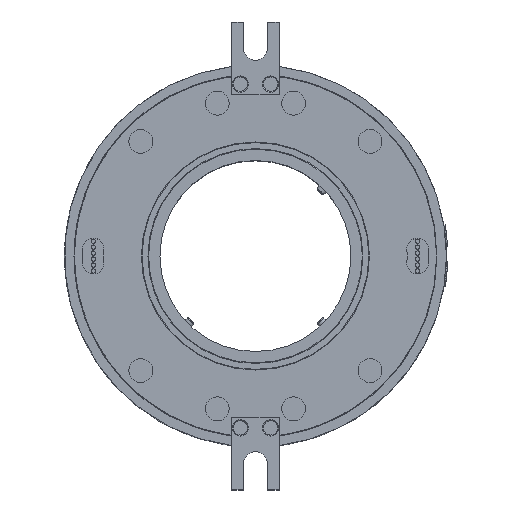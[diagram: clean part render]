
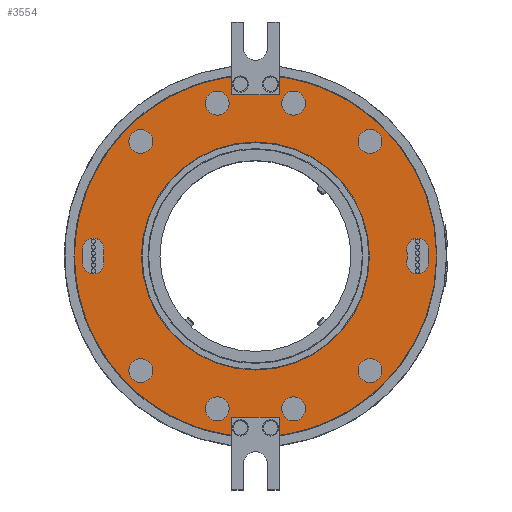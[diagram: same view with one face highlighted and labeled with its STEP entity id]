
A CAD part, top view. The second image highlights one B-rep face of the part: STEP entity #3554.
In plain terms, the highlighted planar face has unit normal (0, 0, 1).
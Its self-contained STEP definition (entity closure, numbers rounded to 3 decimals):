
#3554=ADVANCED_FACE('',(#5081,#5082,#5083,#5084,#5085,#5086,#5087,#5088,
#5089,#5090,#5091,#5092),#3959,.T.);
#3959=PLANE('',#14255);
#4179=LINE('',#23003,#4538);
#4181=LINE('',#23007,#4540);
#4182=LINE('',#23009,#4541);
#4188=LINE('',#23022,#4547);
#4190=LINE('',#23026,#4549);
#4191=LINE('',#23028,#4550);
#4538=VECTOR('',#15103,1.);
#4540=VECTOR('',#15107,1.);
#4541=VECTOR('',#15110,1.);
#4547=VECTOR('',#15124,1.);
#4549=VECTOR('',#15128,1.);
#4550=VECTOR('',#15131,1.);
#5081=FACE_BOUND('',#5981,.T.);
#5082=FACE_BOUND('',#5982,.T.);
#5083=FACE_BOUND('',#5983,.T.);
#5084=FACE_BOUND('',#5984,.T.);
#5085=FACE_BOUND('',#5985,.T.);
#5086=FACE_BOUND('',#5986,.T.);
#5087=FACE_BOUND('',#5987,.T.);
#5088=FACE_BOUND('',#5988,.T.);
#5089=FACE_BOUND('',#5989,.T.);
#5090=FACE_BOUND('',#5990,.T.);
#5091=FACE_BOUND('',#5991,.T.);
#5092=FACE_BOUND('',#5992,.T.);
#5981=EDGE_LOOP('',(#9131,#9132,#9133,#9134));
#5982=EDGE_LOOP('',(#9135,#9136,#9137,#9138,#9139,#9140,#9141,#9142));
#5983=EDGE_LOOP('',(#9143));
#5984=EDGE_LOOP('',(#9144));
#5985=EDGE_LOOP('',(#9145));
#5986=EDGE_LOOP('',(#9146));
#5987=EDGE_LOOP('',(#9147));
#5988=EDGE_LOOP('',(#9148,#9149,#9150,#9151));
#5989=EDGE_LOOP('',(#9152));
#5990=EDGE_LOOP('',(#9153));
#5991=EDGE_LOOP('',(#9154));
#5992=EDGE_LOOP('',(#9155));
#9131=ORIENTED_EDGE('',*,*,#12357,.F.);
#9132=ORIENTED_EDGE('',*,*,#12355,.F.);
#9133=ORIENTED_EDGE('',*,*,#12353,.T.);
#9134=ORIENTED_EDGE('',*,*,#12351,.F.);
#9135=ORIENTED_EDGE('',*,*,#12347,.F.);
#9136=ORIENTED_EDGE('',*,*,#12346,.F.);
#9137=ORIENTED_EDGE('',*,*,#12344,.F.);
#9138=ORIENTED_EDGE('',*,*,#12339,.F.);
#9139=ORIENTED_EDGE('',*,*,#12336,.F.);
#9140=ORIENTED_EDGE('',*,*,#12335,.F.);
#9141=ORIENTED_EDGE('',*,*,#12333,.F.);
#9142=ORIENTED_EDGE('',*,*,#12340,.F.);
#9143=ORIENTED_EDGE('',*,*,#13186,.F.);
#9144=ORIENTED_EDGE('',*,*,#12329,.T.);
#9145=ORIENTED_EDGE('',*,*,#12328,.T.);
#9146=ORIENTED_EDGE('',*,*,#12327,.T.);
#9147=ORIENTED_EDGE('',*,*,#12326,.T.);
#9148=ORIENTED_EDGE('',*,*,#12325,.F.);
#9149=ORIENTED_EDGE('',*,*,#12324,.T.);
#9150=ORIENTED_EDGE('',*,*,#12322,.T.);
#9151=ORIENTED_EDGE('',*,*,#12320,.T.);
#9152=ORIENTED_EDGE('',*,*,#12317,.T.);
#9153=ORIENTED_EDGE('',*,*,#12316,.T.);
#9154=ORIENTED_EDGE('',*,*,#12315,.T.);
#9155=ORIENTED_EDGE('',*,*,#12314,.T.);
#10425=VERTEX_POINT('',#18964);
#10426=VERTEX_POINT('',#18965);
#10431=VERTEX_POINT('',#18978);
#10432=VERTEX_POINT('',#18979);
#10871=VERTEX_POINT('',#22959);
#10872=VERTEX_POINT('',#22962);
#10873=VERTEX_POINT('',#22965);
#10874=VERTEX_POINT('',#22968);
#10875=VERTEX_POINT('',#22971);
#10876=VERTEX_POINT('',#22973);
#10877=VERTEX_POINT('',#22977);
#10878=VERTEX_POINT('',#22981);
#10879=VERTEX_POINT('',#22987);
#10880=VERTEX_POINT('',#22990);
#10881=VERTEX_POINT('',#22993);
#10882=VERTEX_POINT('',#22996);
#10883=VERTEX_POINT('',#22999);
#10885=VERTEX_POINT('',#23006);
#10887=VERTEX_POINT('',#23018);
#10889=VERTEX_POINT('',#23025);
#10891=VERTEX_POINT('',#23034);
#10892=VERTEX_POINT('',#23036);
#10893=VERTEX_POINT('',#23040);
#10894=VERTEX_POINT('',#23044);
#11307=VERTEX_POINT('',#28230);
#12314=EDGE_CURVE('',#10871,#10871,#13574,.T.);
#12315=EDGE_CURVE('',#10872,#10872,#13575,.T.);
#12316=EDGE_CURVE('',#10873,#10873,#13576,.T.);
#12317=EDGE_CURVE('',#10874,#10874,#13577,.T.);
#12320=EDGE_CURVE('',#10875,#10876,#13578,.T.);
#12322=EDGE_CURVE('',#10877,#10875,#13579,.T.);
#12324=EDGE_CURVE('',#10878,#10877,#13580,.T.);
#12325=EDGE_CURVE('',#10878,#10876,#13581,.T.);
#12326=EDGE_CURVE('',#10879,#10879,#13582,.T.);
#12327=EDGE_CURVE('',#10880,#10880,#13583,.T.);
#12328=EDGE_CURVE('',#10881,#10881,#13584,.T.);
#12329=EDGE_CURVE('',#10882,#10882,#13585,.T.);
#12333=EDGE_CURVE('',#10425,#10883,#4179,.T.);
#12335=EDGE_CURVE('',#10883,#10885,#4181,.T.);
#12336=EDGE_CURVE('',#10885,#10426,#4182,.T.);
#12339=EDGE_CURVE('',#10426,#10431,#13586,.T.);
#12340=EDGE_CURVE('',#10432,#10425,#13587,.T.);
#12344=EDGE_CURVE('',#10431,#10887,#4188,.T.);
#12346=EDGE_CURVE('',#10887,#10889,#4190,.T.);
#12347=EDGE_CURVE('',#10889,#10432,#4191,.T.);
#12351=EDGE_CURVE('',#10891,#10892,#13588,.T.);
#12353=EDGE_CURVE('',#10893,#10892,#13589,.T.);
#12355=EDGE_CURVE('',#10893,#10894,#13590,.T.);
#12357=EDGE_CURVE('',#10894,#10891,#13591,.T.);
#13186=EDGE_CURVE('',#11307,#11307,#13634,.T.);
#13574=CIRCLE('',#13905,5.);
#13575=CIRCLE('',#13907,5.);
#13576=CIRCLE('',#13909,5.);
#13577=CIRCLE('',#13911,5.);
#13578=CIRCLE('',#13913,4.5);
#13579=CIRCLE('',#13915,72.5);
#13580=CIRCLE('',#13917,4.5);
#13581=CIRCLE('',#13919,63.5);
#13582=CIRCLE('',#13921,5.);
#13583=CIRCLE('',#13923,5.);
#13584=CIRCLE('',#13925,5.);
#13585=CIRCLE('',#13927,5.);
#13586=CIRCLE('',#13932,75.9);
#13587=CIRCLE('',#13933,75.9);
#13588=CIRCLE('',#13938,4.5);
#13589=CIRCLE('',#13940,63.5);
#13590=CIRCLE('',#13942,4.5);
#13591=CIRCLE('',#13944,72.5);
#13634=CIRCLE('',#14254,47.75);
#13905=AXIS2_PLACEMENT_3D('',#22958,#15048,#15049);
#13907=AXIS2_PLACEMENT_3D('',#22961,#15052,#15053);
#13909=AXIS2_PLACEMENT_3D('',#22964,#15056,#15057);
#13911=AXIS2_PLACEMENT_3D('',#22967,#15060,#15061);
#13913=AXIS2_PLACEMENT_3D('',#22974,#15066,#15067);
#13915=AXIS2_PLACEMENT_3D('',#22978,#15071,#15072);
#13917=AXIS2_PLACEMENT_3D('',#22982,#15076,#15077);
#13919=AXIS2_PLACEMENT_3D('',#22984,#15080,#15081);
#13921=AXIS2_PLACEMENT_3D('',#22986,#15084,#15085);
#13923=AXIS2_PLACEMENT_3D('',#22989,#15088,#15089);
#13925=AXIS2_PLACEMENT_3D('',#22992,#15092,#15093);
#13927=AXIS2_PLACEMENT_3D('',#22995,#15096,#15097);
#13932=AXIS2_PLACEMENT_3D('',#23014,#15115,#15116);
#13933=AXIS2_PLACEMENT_3D('',#23015,#15117,#15118);
#13938=AXIS2_PLACEMENT_3D('',#23035,#15137,#15138);
#13940=AXIS2_PLACEMENT_3D('',#23039,#15142,#15143);
#13942=AXIS2_PLACEMENT_3D('',#23043,#15147,#15148);
#13944=AXIS2_PLACEMENT_3D('',#23047,#15152,#15153);
#14254=AXIS2_PLACEMENT_3D('',#28229,#16056,#16057);
#14255=AXIS2_PLACEMENT_3D('',#28231,#16058,#16059);
#15048=DIRECTION('',(0.,0.,-1.));
#15049=DIRECTION('',(1.,0.,0.));
#15052=DIRECTION('',(0.,0.,-1.));
#15053=DIRECTION('',(1.,0.,0.));
#15056=DIRECTION('',(0.,0.,-1.));
#15057=DIRECTION('',(1.,0.,0.));
#15060=DIRECTION('',(0.,0.,-1.));
#15061=DIRECTION('',(1.,0.,0.));
#15066=DIRECTION('',(0.,0.,-1.));
#15067=DIRECTION('',(0.999,-0.044,0.));
#15071=DIRECTION('',(0.,0.,-1.));
#15072=DIRECTION('',(1.,0.,0.));
#15076=DIRECTION('',(0.,0.,-1.));
#15077=DIRECTION('',(0.999,0.044,0.));
#15080=DIRECTION('',(0.,0.,-1.));
#15081=DIRECTION('',(1.,0.,0.));
#15084=DIRECTION('',(0.,0.,-1.));
#15085=DIRECTION('',(1.,0.,0.));
#15088=DIRECTION('',(0.,0.,-1.));
#15089=DIRECTION('',(1.,0.,0.));
#15092=DIRECTION('',(0.,0.,-1.));
#15093=DIRECTION('',(1.,0.,0.));
#15096=DIRECTION('',(0.,0.,-1.));
#15097=DIRECTION('',(1.,0.,0.));
#15103=DIRECTION('',(0.,1.,0.));
#15107=DIRECTION('',(-1.,0.,0.));
#15110=DIRECTION('',(0.,-1.,0.));
#15115=DIRECTION('',(0.,0.,-1.));
#15116=DIRECTION('',(1.,0.,0.));
#15117=DIRECTION('',(0.,0.,-1.));
#15118=DIRECTION('',(1.,0.,0.));
#15124=DIRECTION('',(0.,-1.,0.));
#15128=DIRECTION('',(1.,0.,0.));
#15131=DIRECTION('',(0.,1.,0.));
#15137=DIRECTION('',(0.,0.,1.));
#15138=DIRECTION('',(1.,0.,0.));
#15142=DIRECTION('',(0.,0.,1.));
#15143=DIRECTION('',(1.,0.,0.));
#15147=DIRECTION('',(0.,0.,1.));
#15148=DIRECTION('',(1.,0.,0.));
#15152=DIRECTION('',(0.,0.,1.));
#15153=DIRECTION('',(1.,0.,0.));
#16056=DIRECTION('',(0.,0.,1.));
#16057=DIRECTION('',(1.,0.,0.));
#16058=DIRECTION('',(0.,0.,1.));
#16059=DIRECTION('',(1.,0.,0.));
#18964=CARTESIAN_POINT('',(10.,-75.238,91.5));
#18965=CARTESIAN_POINT('',(-10.,-75.238,91.5));
#18978=CARTESIAN_POINT('',(-10.,75.238,91.5));
#18979=CARTESIAN_POINT('',(10.,75.238,91.5));
#22958=CARTESIAN_POINT('',(-16.,-64.,91.5));
#22959=CARTESIAN_POINT('',(-11.,-64.,91.5));
#22961=CARTESIAN_POINT('',(48.,-48.,91.5));
#22962=CARTESIAN_POINT('',(53.,-48.,91.5));
#22964=CARTESIAN_POINT('',(16.,64.,91.5));
#22965=CARTESIAN_POINT('',(21.,64.,91.5));
#22967=CARTESIAN_POINT('',(-48.,48.,91.5));
#22968=CARTESIAN_POINT('',(-43.,48.,91.5));
#22971=CARTESIAN_POINT('',(-72.431,3.162,91.5));
#22973=CARTESIAN_POINT('',(-63.44,2.77,91.5));
#22974=CARTESIAN_POINT('',(-67.935,2.966,91.5));
#22977=CARTESIAN_POINT('',(-72.431,-3.162,91.5));
#22978=CARTESIAN_POINT('',(0.,0.,91.5));
#22981=CARTESIAN_POINT('',(-63.44,-2.77,91.5));
#22982=CARTESIAN_POINT('',(-67.935,-2.966,91.5));
#22984=CARTESIAN_POINT('',(0.,0.,91.5));
#22986=CARTESIAN_POINT('',(16.,-64.,91.5));
#22987=CARTESIAN_POINT('',(21.,-64.,91.5));
#22989=CARTESIAN_POINT('',(-16.,64.,91.5));
#22990=CARTESIAN_POINT('',(-11.,64.,91.5));
#22992=CARTESIAN_POINT('',(48.,48.,91.5));
#22993=CARTESIAN_POINT('',(53.,48.,91.5));
#22995=CARTESIAN_POINT('',(-48.,-48.,91.5));
#22996=CARTESIAN_POINT('',(-43.,-48.,91.5));
#22999=CARTESIAN_POINT('',(10.,-67.5,91.5));
#23003=CARTESIAN_POINT('',(10.,-82.75,91.5));
#23006=CARTESIAN_POINT('',(-10.,-67.5,91.5));
#23007=CARTESIAN_POINT('',(0.,-67.5,91.5));
#23009=CARTESIAN_POINT('',(-10.,-82.75,91.5));
#23014=CARTESIAN_POINT('',(0.,0.,91.5));
#23015=CARTESIAN_POINT('',(0.,0.,91.5));
#23018=CARTESIAN_POINT('',(-10.,67.5,91.5));
#23022=CARTESIAN_POINT('',(-10.,82.75,91.5));
#23025=CARTESIAN_POINT('',(10.,67.5,91.5));
#23026=CARTESIAN_POINT('',(0.,67.5,91.5));
#23028=CARTESIAN_POINT('',(10.,82.75,91.5));
#23034=CARTESIAN_POINT('',(72.431,3.162,91.5));
#23035=CARTESIAN_POINT('',(67.935,2.966,91.5));
#23036=CARTESIAN_POINT('',(63.44,2.77,91.5));
#23039=CARTESIAN_POINT('',(0.,0.,91.5));
#23040=CARTESIAN_POINT('',(63.44,-2.77,91.5));
#23043=CARTESIAN_POINT('',(67.935,-2.966,91.5));
#23044=CARTESIAN_POINT('',(72.431,-3.162,91.5));
#23047=CARTESIAN_POINT('',(0.,0.,91.5));
#28229=CARTESIAN_POINT('',(0.,0.,91.5));
#28230=CARTESIAN_POINT('',(47.75,0.,91.5));
#28231=CARTESIAN_POINT('',(0.,0.,91.5));
